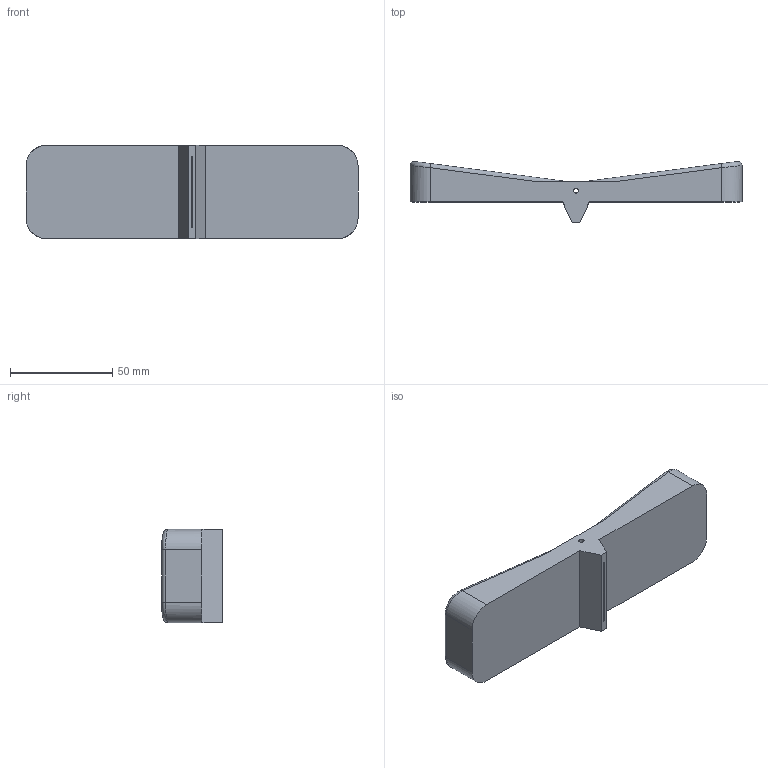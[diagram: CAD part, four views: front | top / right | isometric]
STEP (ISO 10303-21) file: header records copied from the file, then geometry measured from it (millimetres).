
FILE_DESCRIPTION (( 'STEP AP203' ), '1' );
FILE_NAME ('LEVER.STEP', '2021-09-09T14:18:36', ( '' ), ( '' ), 'SwSTEP 2.0', 'SolidWorks 2020', '' );
FILE_SCHEMA (( 'CONFIG_CONTROL_DESIGN' ));
Length unit declared in the file: millimetre
Products named in the file (1): LEVER
Bounding box: 162 x 29.72 x 45.5 mm (x, y, z)
Volume: 109689 mm3; surface area: 22252.3 mm2
Topology: 1 solids, 1 shells, 33 faces, 82 edges, 52 vertices
Faces by surface type: plane 17, cylinder 12, bspline 4
Entity records: 1149 total; most frequent: CARTESIAN_POINT 320, ORIENTED_EDGE 164, DIRECTION 146, EDGE_CURVE 82, VECTOR 54, LINE 54, VERTEX_POINT 52, AXIS2_PLACEMENT_3D 46
